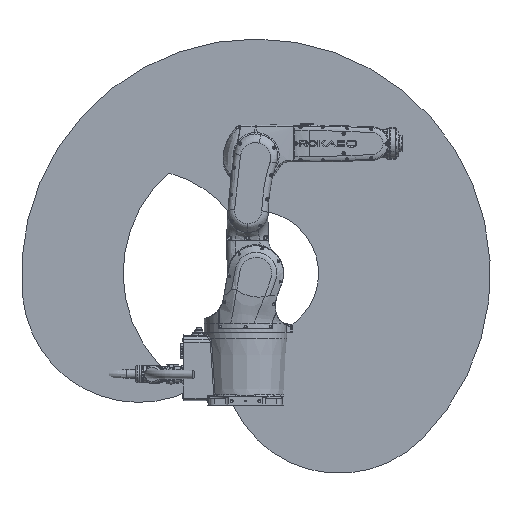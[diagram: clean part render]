
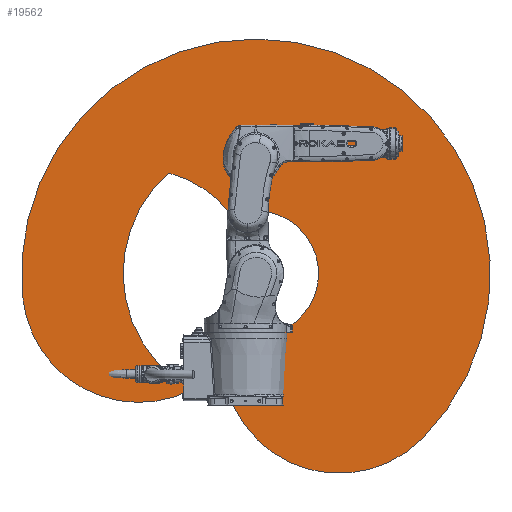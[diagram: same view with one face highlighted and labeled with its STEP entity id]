
A CAD part, front view. The second image highlights one B-rep face of the part: STEP entity #19562.
In plain terms, the highlighted planar face has unit normal (0, -1, 0).
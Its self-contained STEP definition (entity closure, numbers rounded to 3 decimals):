
#19562=ADVANCED_FACE('',(#25821),#22326,.T.);
#22326=PLANE('',#82910);
#25821=FACE_OUTER_BOUND('',#31028,.T.);
#31028=EDGE_LOOP('',(#47314,#47315,#47316,#47317,#47318,#47319));
#47314=ORIENTED_EDGE('',*,*,#69605,.T.);
#47315=ORIENTED_EDGE('',*,*,#69606,.T.);
#47316=ORIENTED_EDGE('',*,*,#69607,.T.);
#47317=ORIENTED_EDGE('',*,*,#69608,.T.);
#47318=ORIENTED_EDGE('',*,*,#69609,.T.);
#47319=ORIENTED_EDGE('',*,*,#69610,.T.);
#59913=VERTEX_POINT('',#169293);
#59914=VERTEX_POINT('',#169294);
#59915=VERTEX_POINT('',#169296);
#59916=VERTEX_POINT('',#169298);
#59917=VERTEX_POINT('',#169300);
#59918=VERTEX_POINT('',#169302);
#69605=EDGE_CURVE('',#59913,#59914,#76382,.T.);
#69606=EDGE_CURVE('',#59914,#59915,#76383,.T.);
#69607=EDGE_CURVE('',#59915,#59916,#76384,.T.);
#69608=EDGE_CURVE('',#59916,#59917,#76385,.T.);
#69609=EDGE_CURVE('',#59917,#59918,#76386,.T.);
#69610=EDGE_CURVE('',#59918,#59913,#76387,.T.);
#76382=CIRCLE('',#82904,180.697);
#76383=CIRCLE('',#82905,336.823);
#76384=CIRCLE('',#82906,676.823);
#76385=CIRCLE('',#82907,336.823);
#76386=CIRCLE('',#82908,383.538);
#76387=CIRCLE('',#82909,336.823);
#82904=AXIS2_PLACEMENT_3D('',#169292,#98481,#98482);
#82905=AXIS2_PLACEMENT_3D('',#169295,#98483,#98484);
#82906=AXIS2_PLACEMENT_3D('',#169297,#98485,#98486);
#82907=AXIS2_PLACEMENT_3D('',#169299,#98487,#98488);
#82908=AXIS2_PLACEMENT_3D('',#169301,#98489,#98490);
#82909=AXIS2_PLACEMENT_3D('',#169303,#98491,#98492);
#82910=AXIS2_PLACEMENT_3D('',#169304,#98493,#98494);
#98481=DIRECTION('',(0.,1.,0.));
#98482=DIRECTION('',(1.,0.,0.));
#98483=DIRECTION('',(0.,-1.,0.));
#98484=DIRECTION('',(1.,0.,0.));
#98485=DIRECTION('',(0.,-1.,0.));
#98486=DIRECTION('',(1.,0.,0.));
#98487=DIRECTION('',(0.,-1.,0.));
#98488=DIRECTION('',(1.,0.,0.));
#98489=DIRECTION('',(0.,1.,0.));
#98490=DIRECTION('',(1.,0.,0.));
#98491=DIRECTION('',(0.,1.,0.));
#98492=DIRECTION('',(1.,0.,0.));
#98493=DIRECTION('',(0.,-1.,0.));
#98494=DIRECTION('',(0.,0.,-1.));
#169292=CARTESIAN_POINT('',(6527.959,2056.777,0.));
#169293=CARTESIAN_POINT('',(6458.946,2056.777,166.999));
#169294=CARTESIAN_POINT('',(6441.608,2056.777,-158.729));
#169295=CARTESIAN_POINT('',(6768.375,2056.777,-240.416));
#169296=CARTESIAN_POINT('',(7006.545,2056.777,-478.586));
#169297=CARTESIAN_POINT('',(6527.959,2056.777,0.));
#169298=CARTESIAN_POINT('',(5854.844,2056.777,-70.747));
#169299=CARTESIAN_POINT('',(6189.822,2056.777,-35.54));
#169300=CARTESIAN_POINT('',(6342.55,2056.777,-335.746));
#169301=CARTESIAN_POINT('',(6527.959,2056.777,0.));
#169302=CARTESIAN_POINT('',(6276.796,2056.777,289.86));
#169303=CARTESIAN_POINT('',(6189.822,2056.777,-35.54));
#169304=CARTESIAN_POINT('',(6358.89,2056.777,-17.77));
